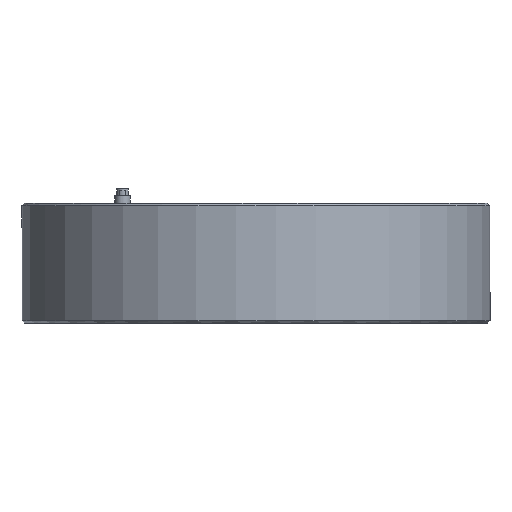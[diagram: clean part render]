
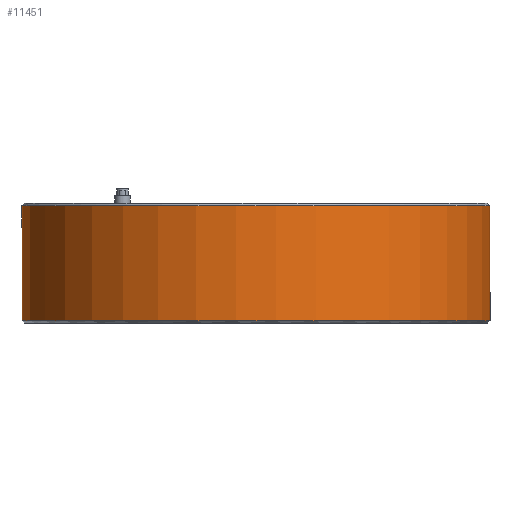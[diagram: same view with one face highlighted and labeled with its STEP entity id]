
A CAD part, left-side view. The second image highlights one B-rep face of the part: STEP entity #11451.
In plain terms, the highlighted cylindrical face has radius 137 mm (diameter 274 mm), a partial arc.
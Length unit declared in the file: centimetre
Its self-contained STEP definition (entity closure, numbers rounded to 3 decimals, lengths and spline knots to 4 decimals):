
#2183=VECTOR('',#15582,1.);
#2184=VECTOR('',#15583,1.);
#2715=LINE('',#45021,#2183);
#2716=LINE('',#45027,#2184);
#3804=VERTEX_POINT('',#45017);
#3805=VERTEX_POINT('',#45018);
#3806=VERTEX_POINT('',#45022);
#3807=VERTEX_POINT('',#45026);
#4466=CIRCLE('',#12714,13.7);
#4471=CIRCLE('',#12722,13.7);
#5950=EDGE_CURVE('',#3805,#3804,#4466,.T.);
#5951=EDGE_CURVE('',#3804,#3806,#2715,.T.);
#5953=EDGE_CURVE('',#3805,#3807,#2716,.T.);
#5958=EDGE_CURVE('',#3806,#3807,#4471,.T.);
#8932=ORIENTED_EDGE('',*,*,#5950,.F.);
#8933=ORIENTED_EDGE('',*,*,#5953,.T.);
#8934=ORIENTED_EDGE('',*,*,#5958,.F.);
#8935=ORIENTED_EDGE('',*,*,#5951,.F.);
#9829=EDGE_LOOP('',(#8932,#8933,#8934,#8935));
#10723=FACE_BOUND('',#9829,.T.);
#11451=ADVANCED_FACE('',(#10723),#45314,.T.);
#12714=AXIS2_PLACEMENT_3D('',#45019,#15579,#15580);
#12722=AXIS2_PLACEMENT_3D('',#45038,#15595,#15596);
#12732=AXIS2_PLACEMENT_3D('',#45051,#15612,#15613);
#15579=DIRECTION('',(0.,0.,1.));
#15580=DIRECTION('',(-13.7,0.,0.));
#15582=DIRECTION('',(0.,0.,-1.));
#15583=DIRECTION('',(0.,0.,-1.));
#15595=DIRECTION('',(0.,0.,-1.));
#15596=DIRECTION('',(-13.7,0.,0.));
#15612=DIRECTION('',(0.,0.,-1.));
#15613=DIRECTION('',(-13.7,0.,0.));
#45017=CARTESIAN_POINT('',(-5.519,-8.4216,5.5968));
#45018=CARTESIAN_POINT('',(-5.519,-5.1171,5.5968));
#45019=CARTESIAN_POINT('',(-19.119,-6.7693,5.5968));
#45021=CARTESIAN_POINT('',(-5.519,-8.4216,5.7468));
#45022=CARTESIAN_POINT('',(-5.519,-8.4216,-1.1032));
#45026=CARTESIAN_POINT('',(-5.519,-5.1171,-1.1032));
#45027=CARTESIAN_POINT('',(-5.519,-5.1171,5.7468));
#45038=CARTESIAN_POINT('',(-19.119,-6.7693,-1.1032));
#45051=CARTESIAN_POINT('',(-19.119,-6.7693,5.7468));
#45314=CYLINDRICAL_SURFACE('',#12732,13.7);
